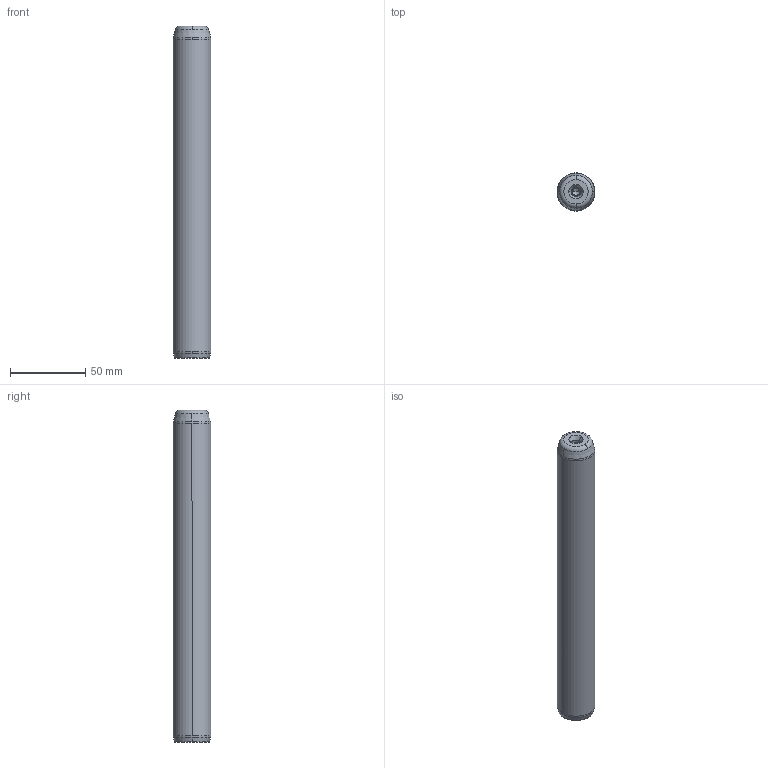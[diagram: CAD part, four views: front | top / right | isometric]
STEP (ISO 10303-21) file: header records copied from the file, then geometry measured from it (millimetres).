
FILE_DESCRIPTION((''),'2;1');
FILE_NAME('P10_025_220.stp','2008-12-23T14:55:37',(''),(''),'Mechanical Desktop 2009','Mechanical Desktop 2009',', , ');
FILE_SCHEMA(('CONFIG_CONTROL_DESIGN'));
Length unit declared in the file: millimetre
Products named in the file (5): Product; ProductAA; blmdl1; ProductA; blmdl1A
Assembly tree (2 placements, depth 3):
  Product
    ProductAA
      blmdl1
  ProductA
  blmdl1A
Bounding box: 25 x 25 x 220 mm (x, y, z)
Volume: 106623.6 mm3; surface area: 18281.7 mm2
Topology: 1 solids, 1 shells, 26 faces, 66 edges, 41 vertices
Faces by surface type: cone 10, torus 8, cylinder 6, plane 2
Entity records: 1012 total; most frequent: DIRECTION 170, CARTESIAN_POINT 134, ORIENTED_EDGE 128, AXIS2_PLACEMENT_3D 77, EDGE_CURVE 64, CIRCLE 48, VERTEX_POINT 41, EDGE_LOOP 27
